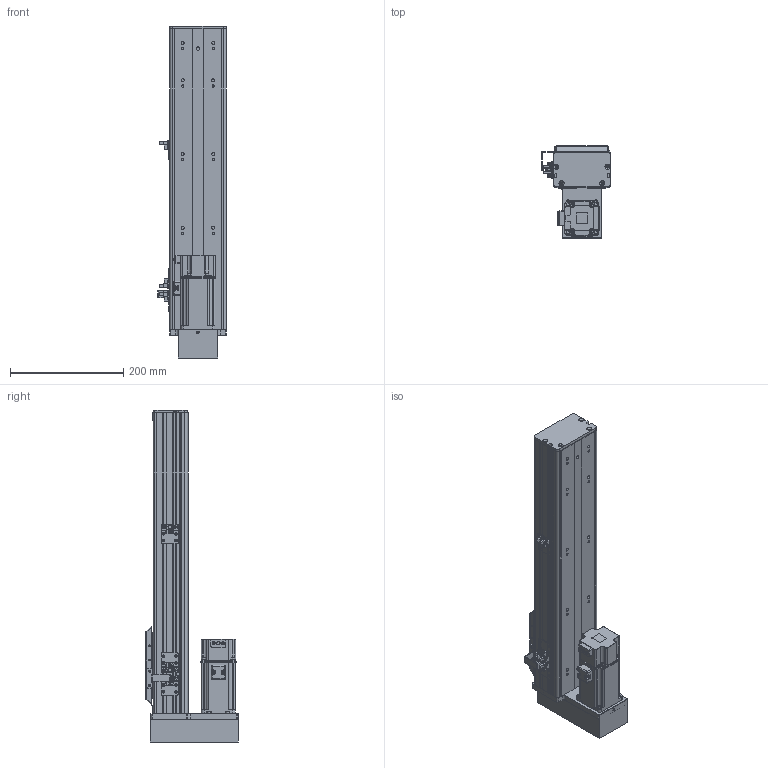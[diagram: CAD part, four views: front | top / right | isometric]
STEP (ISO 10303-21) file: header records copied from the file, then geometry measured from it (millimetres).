
FILE_DESCRIPTION (( 'STEP AP203' ), '1' );
FILE_NAME ('BOSW100-350-1610-1P-DM-M400W-O-S3（方程式2016）.step', '2020-10-10T06:41:55', ( '' ), ( '' ), 'SwSTEP 2.0', 'SolidWorks 2016', '' );
FILE_SCHEMA (( 'CONFIG_CONTROL_DESIGN' ));
Length unit declared in the file: millimetre
Products named in the file (14): BOSW-100-1P-DM-宽轨-钢带-350客户图纸; 放大器内置U型微型光电传感器PM-L65; BOSW&TW-100-俋离覜茼え; BOSW-100-綴裔啣; 新结构AIMSW-100-1P-宽&高轨共用-滑动座上组件; BOSW-100-1P-DM-350諦誧芞; BOSW&TW-100-1P-賑雄釱欶; 俋境嫖覜嘐隅啣; BOS100-DM鎮湛欶; BOSW&TW-100-詩湍揤沭(陔賦凳); BOS-100-DM鎮湛假蚾啣; BOSW-100-1P-DM-宽轨-侧板-350客户图纸; S400W(SMA-L040); BOSW100-350-1610-1P-DM-M400W-O-S3（方程式2016）
Assembly tree (19 placements, depth 2):
  BOSW100-350-1610-1P-DM-M400W-O-S3（方程式2016）
    BOSW-100-1P-DM-350諦誧芞
    BOSW-100-綴裔啣
    新结构AIMSW-100-1P-宽&高轨共用-滑动座上组件
    S400W(SMA-L040)
    BOSW&TW-100-詩湍揤沭(陔賦凳)  x2
    BOSW&TW-100-1P-賑雄釱欶
    BOSW&TW-100-俋离覜茼え
    俋境嫖覜嘐隅啣  x3
    放大器内置U型微型光电传感器PM-L65  x3
    BOSW-100-1P-DM-宽轨-侧板-350客户图纸  x2
    BOSW-100-1P-DM-宽轨-钢带-350客户图纸
    BOS100-DM鎮湛欶
    BOS-100-DM鎮湛假蚾啣
Bounding box: 120.9 x 164 x 586 mm (x, y, z)
Volume: 1433692.6 mm3; surface area: 693680.9 mm2
Topology: 19 solids, 19 shells, 2526 faces, 6656 edges, 4253 vertices
Faces by surface type: plane 1263, cylinder 787, bspline 271, cone 157, torus 36, sphere 12
Entity records: 69215 total; most frequent: CARTESIAN_POINT 20758, ORIENTED_EDGE 9868, DIRECTION 9538, EDGE_CURVE 4934, AXIS2_PLACEMENT_3D 3362, VERTEX_POINT 3155, VECTOR 2814, LINE 2814
